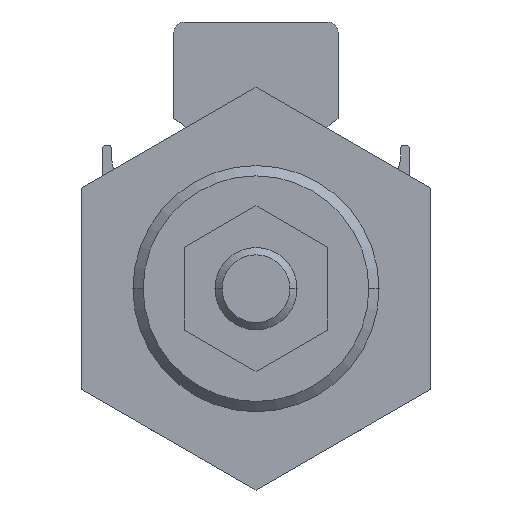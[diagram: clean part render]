
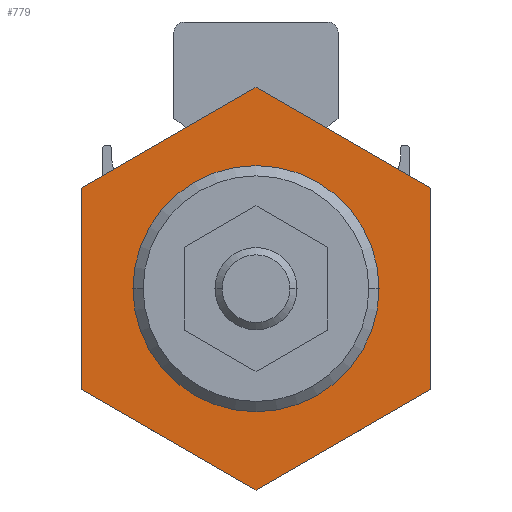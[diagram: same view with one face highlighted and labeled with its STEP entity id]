
A CAD part, front view. The second image highlights one B-rep face of the part: STEP entity #779.
In plain terms, the highlighted planar face has unit normal (0, -1, 0).
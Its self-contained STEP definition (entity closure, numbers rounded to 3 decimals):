
#213=CARTESIAN_POINT('',(-6.,-36.5,7.));
#214=VERTEX_POINT('',#213);
#223=CARTESIAN_POINT('',(6.,-36.5,7.));
#224=VERTEX_POINT('',#223);
#225=CARTESIAN_POINT('',(0.0,-36.5,7.));
#226=DIRECTION('',(0.0,-1.0,0.0));
#227=DIRECTION('',(-1.0,0.0,0.0));
#228=AXIS2_PLACEMENT_3D('',#225,#226,#227);
#229=CIRCLE('',#228,6.);
#230=EDGE_CURVE('',#214,#224,#229,.T.);
#714=CARTESIAN_POINT('',(0.,-36.5,7.));
#715=DIRECTION('',(0.0,1.0,0.0));
#716=DIRECTION('',(0.0,0.0,1.0));
#717=AXIS2_PLACEMENT_3D('',#714,#715,#716);
#718=PLANE('',#717);
#719=CARTESIAN_POINT('',(0.,-36.5,16.815));
#720=VERTEX_POINT('',#719);
#721=CARTESIAN_POINT('',(8.5,-36.5,11.907));
#722=VERTEX_POINT('',#721);
#723=CARTESIAN_POINT('',(0.,-36.5,16.815));
#724=DIRECTION('',(0.866,0.0,-0.5));
#725=VECTOR('',#724,9.815);
#726=LINE('',#723,#725);
#727=EDGE_CURVE('',#720,#722,#726,.T.);
#728=ORIENTED_EDGE('',*,*,#727,.F.);
#729=CARTESIAN_POINT('',(-8.5,-36.5,11.907));
#730=VERTEX_POINT('',#729);
#731=CARTESIAN_POINT('',(-8.5,-36.5,11.907));
#732=DIRECTION('',(0.866,0.0,0.5));
#733=VECTOR('',#732,9.815);
#734=LINE('',#731,#733);
#735=EDGE_CURVE('',#730,#720,#734,.T.);
#736=ORIENTED_EDGE('',*,*,#735,.F.);
#737=CARTESIAN_POINT('',(-8.5,-36.5,2.093));
#738=VERTEX_POINT('',#737);
#739=CARTESIAN_POINT('',(-8.5,-36.5,2.093));
#740=DIRECTION('',(0.0,0.0,1.0));
#741=VECTOR('',#740,9.815);
#742=LINE('',#739,#741);
#743=EDGE_CURVE('',#738,#730,#742,.T.);
#744=ORIENTED_EDGE('',*,*,#743,.F.);
#745=CARTESIAN_POINT('',(0.,-36.5,-2.815));
#746=VERTEX_POINT('',#745);
#747=CARTESIAN_POINT('',(0.,-36.5,-2.815));
#748=DIRECTION('',(-0.866,0.0,0.5));
#749=VECTOR('',#748,9.815);
#750=LINE('',#747,#749);
#751=EDGE_CURVE('',#746,#738,#750,.T.);
#752=ORIENTED_EDGE('',*,*,#751,.F.);
#753=CARTESIAN_POINT('',(8.5,-36.5,2.093));
#754=VERTEX_POINT('',#753);
#755=CARTESIAN_POINT('',(8.5,-36.5,2.093));
#756=DIRECTION('',(-0.866,0.0,-0.5));
#757=VECTOR('',#756,9.815);
#758=LINE('',#755,#757);
#759=EDGE_CURVE('',#754,#746,#758,.T.);
#760=ORIENTED_EDGE('',*,*,#759,.F.);
#761=CARTESIAN_POINT('',(8.5,-36.5,11.907));
#762=DIRECTION('',(0.0,0.0,-1.0));
#763=VECTOR('',#762,9.815);
#764=LINE('',#761,#763);
#765=EDGE_CURVE('',#722,#754,#764,.T.);
#766=ORIENTED_EDGE('',*,*,#765,.F.);
#767=EDGE_LOOP('',(#728,#736,#744,#752,#760,#766));
#768=FACE_OUTER_BOUND('',#767,.T.);
#769=CARTESIAN_POINT('',(0.0,-36.5,7.));
#770=DIRECTION('',(0.0,-1.0,0.0));
#771=DIRECTION('',(-1.0,0.0,0.0));
#772=AXIS2_PLACEMENT_3D('',#769,#770,#771);
#773=CIRCLE('',#772,6.);
#774=EDGE_CURVE('',#224,#214,#773,.T.);
#775=ORIENTED_EDGE('',*,*,#774,.F.);
#776=ORIENTED_EDGE('',*,*,#230,.F.);
#777=EDGE_LOOP('',(#775,#776));
#778=FACE_BOUND('',#777,.T.);
#779=ADVANCED_FACE('',(#768,#778),#718,.F.);
